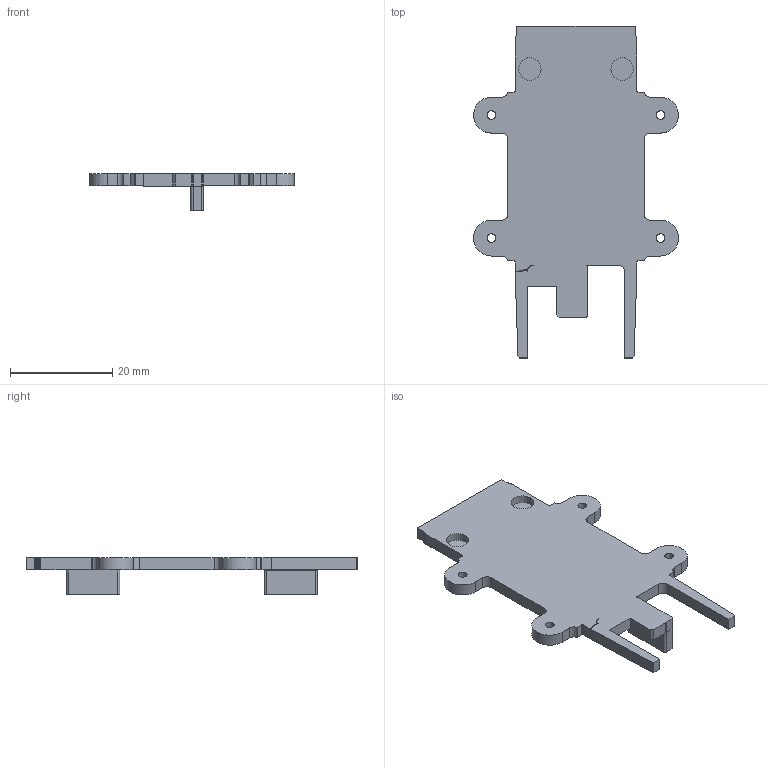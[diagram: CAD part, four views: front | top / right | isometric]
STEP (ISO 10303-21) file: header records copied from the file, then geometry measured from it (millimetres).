
FILE_DESCRIPTION(('Open CASCADE Model'),'2;1');
FILE_NAME('Open CASCADE Shape Model','2026-10-13T01:48:53',('Author'),( 'Open CASCADE'),'Open CASCADE STEP processor 7.9','Open CASCADE 7.9' ,'Unknown');
FILE_SCHEMA(('AUTOMOTIVE_DESIGN { 1 0 10303 214 1 1 1 1 }'));
Length unit declared in the file: millimetre
Products named in the file (1): Open CASCADE STEP translator 7.9 1
Bounding box: 40 x 64.8 x 7.15 mm (x, y, z)
Volume: 3848.1 mm3; surface area: 4074.7 mm2
Topology: 1 solids, 1 shells, 192 faces, 561 edges, 366 vertices
Faces by surface type: plane 157, cylinder 35
Full cylindrical faces by diameter (mm): 1.7 x4, 4.4 x2
Entity records: 13650 total; most frequent: CARTESIAN_POINT 2304, DIRECTION 2121, LINE 1517, VECTOR 1517, ORIENTED_EDGE 1134, PCURVE 1122, DEFINITIONAL_REPRESENTATION 1122, EDGE_CURVE 561
